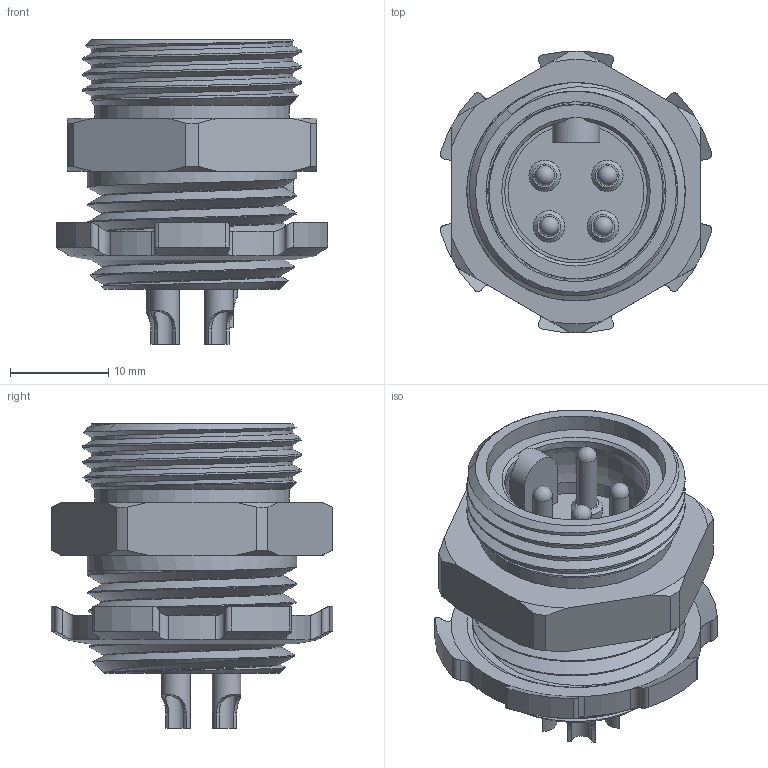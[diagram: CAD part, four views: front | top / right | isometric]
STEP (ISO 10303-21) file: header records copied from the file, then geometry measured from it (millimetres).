
FILE_DESCRIPTION (( 'STEP AP203' ), '1' );
FILE_NAME ('CM03A-R4P-S(R1).STEP', '2022-04-05T12:40:36', ( '' ), ( '' ), 'SwSTEP 2.0', 'SolidWorks 2018', '' );
FILE_SCHEMA (( 'CONFIG_CONTROL_DESIGN' ));
Length unit declared in the file: millimetre
Products named in the file (1): CM03A-R4P-S(R1)
Bounding box: 27.61 x 28.61 x 31 mm (x, y, z)
Volume: 8751.7 mm3; surface area: 5800.7 mm2
Topology: 1 solids, 1 shells, 184 faces, 483 edges, 307 vertices
Faces by surface type: cylinder 73, plane 54, cone 42, bspline 9, sphere 4, torus 2
Full cylindrical faces by diameter (mm): 2.01 x4, 2.1 x4, 2.9 x4, 3.2 x4, 17.7 x1, 18.3 x1, 19.8 x1, 21.34 x1
Entity records: 10893 total; most frequent: CARTESIAN_POINT 6931, ORIENTED_EDGE 814, DIRECTION 731, EDGE_CURVE 407, AXIS2_PLACEMENT_3D 301, VERTEX_POINT 275, EDGE_LOOP 230, FACE_OUTER_BOUND 202
